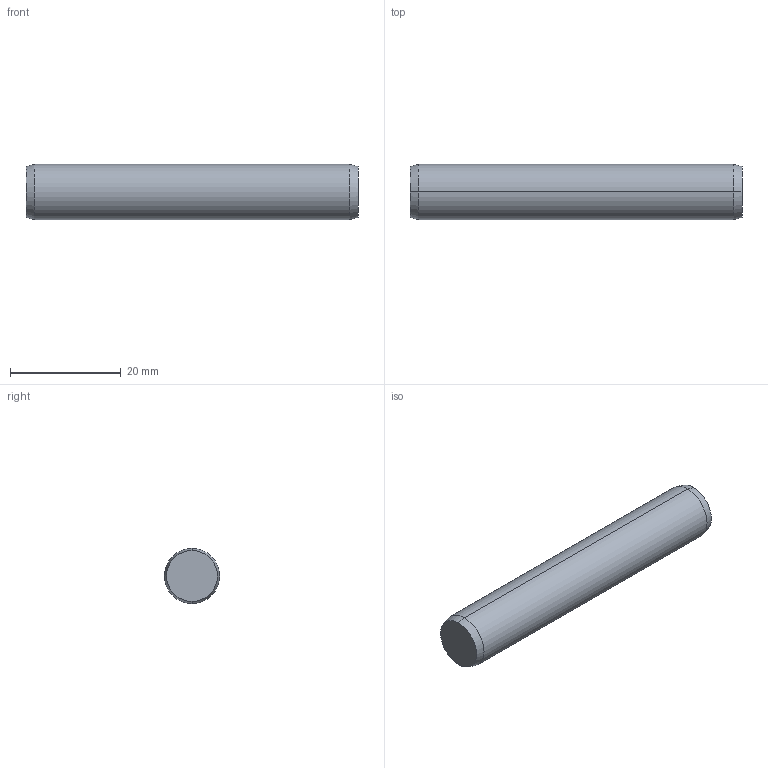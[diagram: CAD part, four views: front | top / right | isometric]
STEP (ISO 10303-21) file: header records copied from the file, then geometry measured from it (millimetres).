
FILE_DESCRIPTION (( 'STEP AP203' ), '1' );
FILE_NAME ('P1206.100-060.step', '2017-06-14T08:34:00', ( 'User' ), ( '' ), 'SwSTEP 2.0', 'SolidWorks 2009', '' );
FILE_SCHEMA (( 'CONFIG_CONTROL_DESIGN' ));
Length unit declared in the file: millimetre
Products named in the file (1): P1206.100-060
Bounding box: 60 x 10 x 10 mm (x, y, z)
Volume: 4694 mm3; surface area: 2017.2 mm2
Topology: 1 solids, 1 shells, 8 faces, 14 edges, 8 vertices
Faces by surface type: cone 4, cylinder 2, plane 2
Entity records: 271 total; most frequent: DIRECTION 40, CARTESIAN_POINT 31, ORIENTED_EDGE 28, AXIS2_PLACEMENT_3D 17, EDGE_CURVE 14, EDGE_LOOP 8, ADVANCED_FACE 8, FACE_OUTER_BOUND 8
